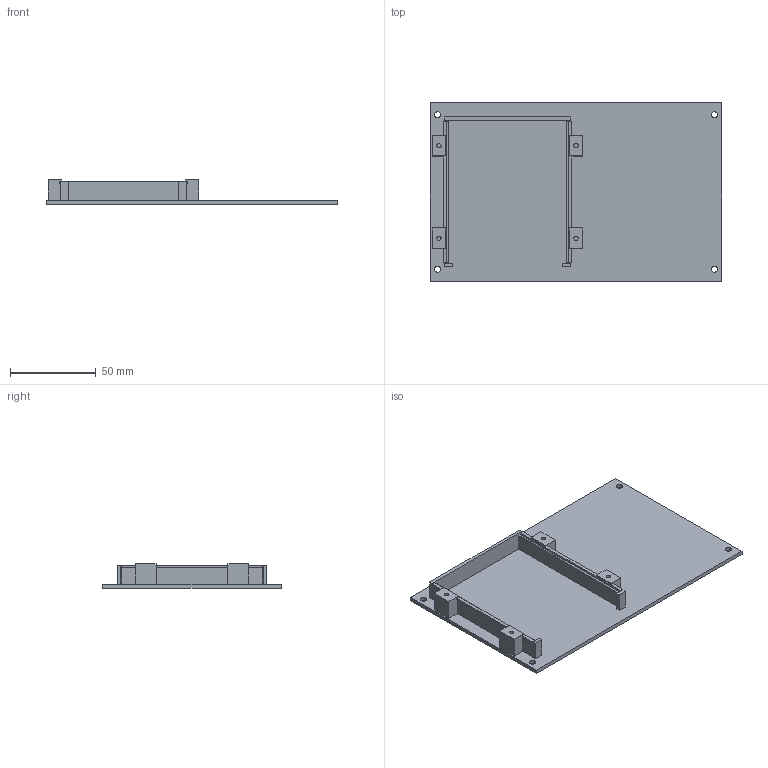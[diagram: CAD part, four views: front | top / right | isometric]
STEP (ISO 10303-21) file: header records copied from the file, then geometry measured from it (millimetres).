
FILE_DESCRIPTION(('Open CASCADE Model'),'2;1');
FILE_NAME('Open CASCADE Shape Model','2026-10-06T15:21:37',('Author'),( 'Open CASCADE'),'Open CASCADE STEP processor 7.9','Open CASCADE 7.9' ,'Unknown');
FILE_SCHEMA(('AUTOMOTIVE_DESIGN { 1 0 10303 214 1 1 1 1 }'));
Length unit declared in the file: millimetre
Products named in the file (1): Open CASCADE STEP translator 7.9 1
Bounding box: 170 x 104 x 14.4 mm (x, y, z)
Volume: 53059.4 mm3; surface area: 43755 mm2
Topology: 1 solids, 1 shells, 83 faces, 216 edges, 144 vertices
Faces by surface type: plane 75, cylinder 8
Full cylindrical faces by diameter (mm): 2.5 x4, 3.6 x4
Entity records: 5184 total; most frequent: CARTESIAN_POINT 1032, DIRECTION 676, LINE 460, VECTOR 460, ORIENTED_EDGE 432, PCURVE 432, DEFINITIONAL_REPRESENTATION 432, EDGE_CURVE 216
